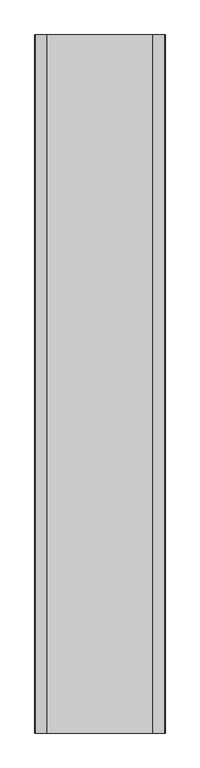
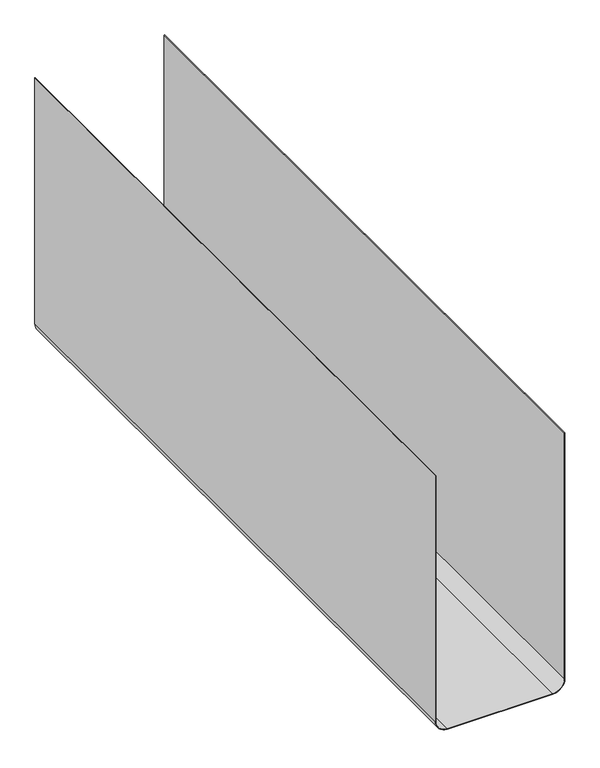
"""IFC4 building model written with IfcOpenShell, lengths in millimetres: proxy geometry, sikawrapElvis : sikawrapElvis."""

from ifc_helpers import new_model, si_unit, point, frame, frame_2d, origin, place, context, project, spatial, polyline, circle_curve, trimmed, segment, composite_curve, outline, extrude, source, transform, mapped, element, save


def generic_models_d7890f8d(model_context):
    return source(origin(), model_context, "Body", "SweptSolid", [
        extrude(outline(composite_curve([segment(polyline([(20.8, -111.45), (470.0, -111.45), (470.0, -112.25), (20.8, -112.25)]), True, "CONTINUOUS"), segment(trimmed(circle_curve(frame_2d((20.8, -91.45)), 20.8), [point((20.8, -112.25))], [point((0.0, -91.45))], False, "CARTESIAN"), True, "CONTINUOUS"), segment(polyline([(0.0, -91.45), (0.0, 91.45)]), True, "CONTINUOUS"), segment(trimmed(circle_curve(frame_2d((20.8, 91.45)), 20.8), [point((0.0, 91.45))], [point((20.8, 112.25))], False, "CARTESIAN"), True, "CONTINUOUS"), segment(polyline([(20.8, 112.25), (470.0, 112.25), (470.0, 111.45), (20.8, 111.45)]), True, "CONTINUOUS"), segment(trimmed(circle_curve(frame_2d((20.8, 91.45)), 20.0), [point((20.8, 111.45))], [point((0.8, 91.45))], True, "CARTESIAN"), True, "CONTINUOUS"), segment(polyline([(0.8, 91.45), (0.8, -91.45)]), True, "CONTINUOUS"), segment(trimmed(circle_curve(frame_2d((20.8, -91.45)), 20.0), [point((0.8, -91.45))], [point((20.8, -111.45))], True, "CARTESIAN"), True, "CONTINUOUS")], self_intersect=False)), frame((0.0, -1200.0, 0.0), z_axis=(0.0, 1.0, 0.0), x_axis=(0.0, 0.0, 1.0)), (0.0, 0.0, 1.0), 1200.0),
    ])


if __name__ == "__main__":
    model = new_model("IFC4")
    model_context = context("Model", 3, world=origin())
    ifc_project = project(units=[si_unit("LENGTHUNIT", "METRE", prefix="MILLI")], contexts=[model_context])
    site = spatial("IfcSite", under=ifc_project)
    building = spatial("IfcBuilding", under=site)
    placement = place(None, origin())
    generic_models_shape = generic_models_d7890f8d(model_context)
    element("IfcBuildingElementProxy", 1, Name="sikawrapElvis : sikawrapElvis", ObjectType="sikawrapElvis : sikawrapElvis", at=placement, inside=building, context=model_context, shape_type="MappedRepresentation", body=[
        mapped(generic_models_shape, transform((0.0, 0.0, 0.0), x_axis=(1.0, 0.0, 0.0), y_axis=(0.0, 1.0, 0.0), z_axis=(0.0, 0.0, 1.0))),
    ])
    save(model, "model.ifc")
